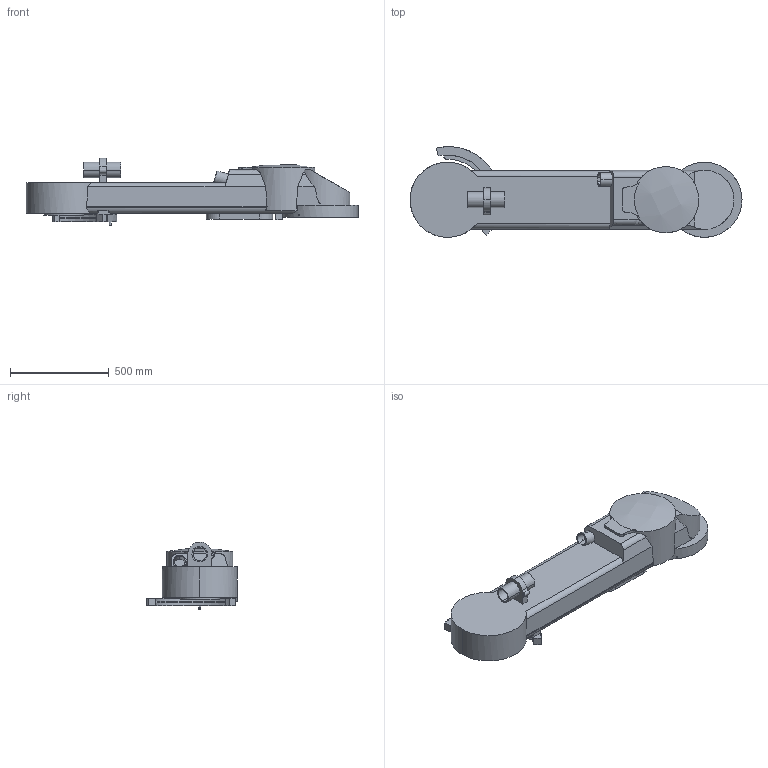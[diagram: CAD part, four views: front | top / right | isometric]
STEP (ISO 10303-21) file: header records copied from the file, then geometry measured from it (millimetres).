
FILE_DESCRIPTION (( 'STEP AP214' ), '1' );
FILE_NAME ('IRB5500_12_T00F71B41V31H51_rev1_3.step', '2006-09-01T12:03:48', ( 'Jonas Eriksson' ), ( '' ), 'SwSTEP 2.0', 'SolidWorks 2004334', '' );
FILE_SCHEMA (( 'AUTOMOTIVE_DESIGN' ));
Length unit declared in the file: millimetre
Products named in the file (1): IRB5500_12_T00F71B41V31H51_rev1_3
Bounding box: 1680.31 x 459.56 x 342.7 mm (x, y, z)
Volume: 92599980 mm3; surface area: 2035310 mm2
Topology: 1 solids, 1 shells, 236 faces, 588 edges, 389 vertices
Faces by surface type: cylinder 125, plane 95, bspline 16
Entity records: 10908 total; most frequent: CARTESIAN_POINT 2652, DIRECTION 1193, ORIENTED_EDGE 1176, EDGE_CURVE 588, AXIS2_PLACEMENT_3D 477, VERTEX_POINT 389, EDGE_LOOP 277, CIRCLE 256
